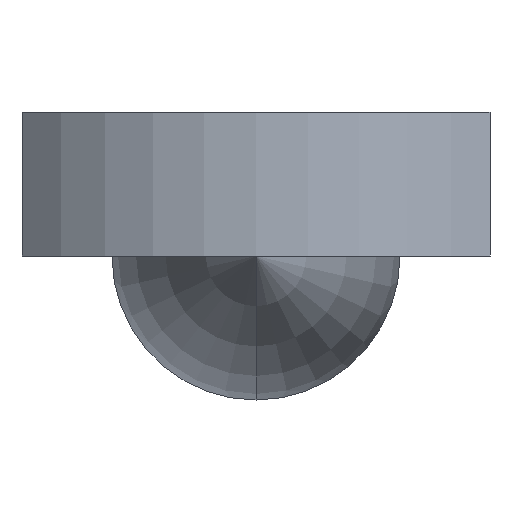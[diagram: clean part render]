
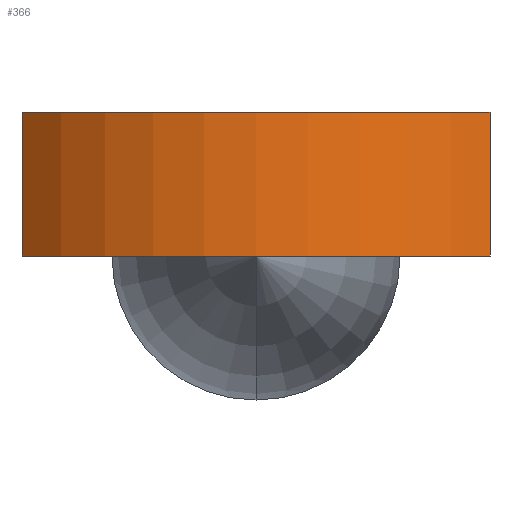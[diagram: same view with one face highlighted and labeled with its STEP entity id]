
A CAD part, front view. The second image highlights one B-rep face of the part: STEP entity #366.
In plain terms, the highlighted cylindrical face has radius 9.057 mm (diameter 18.114 mm), a partial arc.
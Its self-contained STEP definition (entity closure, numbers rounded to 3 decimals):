
#25 = CARTESIAN_POINT ( 'NONE',  ( -6.5, -34.25, 4. ) ) ;
#124 = CARTESIAN_POINT ( 'NONE',  ( -6.5, -34.25, 0. ) ) ;
#141 = EDGE_CURVE ( 'NONE', #171, #319, #358, .T. ) ;
#150 = AXIS2_PLACEMENT_3D ( 'NONE', #609, #184, #544 ) ;
#163 = VECTOR ( 'NONE', #682, 1000. ) ;
#171 = VERTEX_POINT ( 'NONE', #124 ) ;
#180 = EDGE_CURVE ( 'NONE', #195, #633, #446, .T. ) ;
#184 = DIRECTION ( 'NONE',  ( 0., 0., 1. ) ) ;
#195 = VERTEX_POINT ( 'NONE', #25 ) ;
#208 = ORIENTED_EDGE ( 'NONE', *, *, #697, .F. ) ;
#226 = ORIENTED_EDGE ( 'NONE', *, *, #141, .T. ) ;
#227 = EDGE_LOOP ( 'NONE', ( #226, #208, #410, #492 ) ) ;
#235 = CARTESIAN_POINT ( 'NONE',  ( 0., -27.943, 4. ) ) ;
#272 = CARTESIAN_POINT ( 'NONE',  ( 6.5, -34.25, 4. ) ) ;
#285 = FACE_OUTER_BOUND ( 'NONE', #227, .T. ) ;
#306 = DIRECTION ( 'NONE',  ( 0., 0., -1. ) ) ;
#312 = DIRECTION ( 'NONE',  ( 0., 0., 1. ) ) ;
#319 = VERTEX_POINT ( 'NONE', #666 ) ;
#325 = LINE ( 'NONE', #403, #687 ) ;
#358 = CIRCLE ( 'NONE', #150, 9.057 ) ;
#359 = DIRECTION ( 'NONE',  ( 0., 0., -1. ) ) ;
#366 = ADVANCED_FACE ( 'NONE', ( #285 ), #630, .T. ) ;
#374 = LINE ( 'NONE', #621, #163 ) ;
#385 = EDGE_CURVE ( 'NONE', #195, #171, #325, .T. ) ;
#395 = AXIS2_PLACEMENT_3D ( 'NONE', #737, #312, #671 ) ;
#403 = CARTESIAN_POINT ( 'NONE',  ( -6.5, -34.25, 4. ) ) ;
#410 = ORIENTED_EDGE ( 'NONE', *, *, #180, .F. ) ;
#446 = CIRCLE ( 'NONE', #395, 9.057 ) ;
#492 = ORIENTED_EDGE ( 'NONE', *, *, #385, .T. ) ;
#544 = DIRECTION ( 'NONE',  ( 1., 0., 0. ) ) ;
#548 = AXIS2_PLACEMENT_3D ( 'NONE', #235, #359, #658 ) ;
#609 = CARTESIAN_POINT ( 'NONE',  ( 0., -27.943, 0. ) ) ;
#621 = CARTESIAN_POINT ( 'NONE',  ( 6.5, -34.25, 4. ) ) ;
#630 = CYLINDRICAL_SURFACE ( 'NONE', #548, 9.057 ) ;
#633 = VERTEX_POINT ( 'NONE', #272 ) ;
#658 = DIRECTION ( 'NONE',  ( -1., 0., 0. ) ) ;
#666 = CARTESIAN_POINT ( 'NONE',  ( 6.5, -34.25, 0. ) ) ;
#671 = DIRECTION ( 'NONE',  ( 1., 0., 0. ) ) ;
#682 = DIRECTION ( 'NONE',  ( 0., 0., -1. ) ) ;
#687 = VECTOR ( 'NONE', #306, 1000. ) ;
#697 = EDGE_CURVE ( 'NONE', #633, #319, #374, .T. ) ;
#737 = CARTESIAN_POINT ( 'NONE',  ( 0., -27.943, 4. ) ) ;
